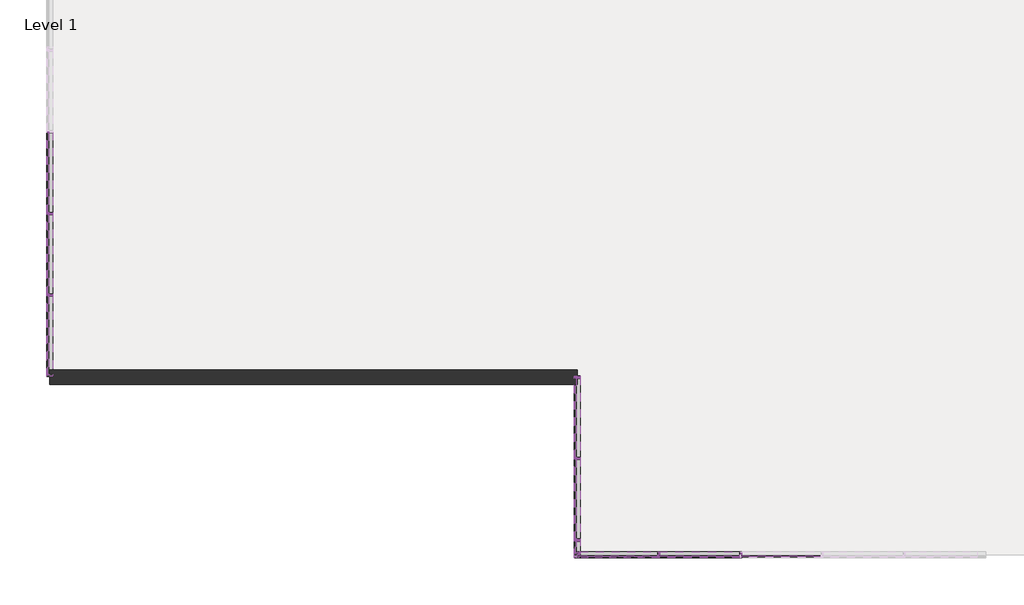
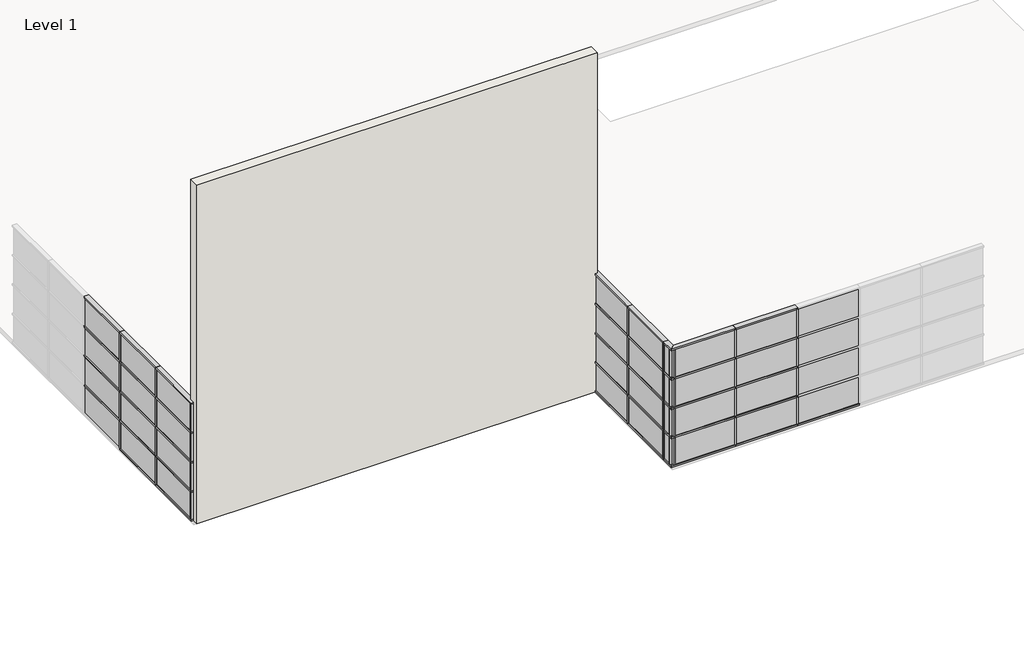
# One storey, part 1 of 6: 89 members, 36 plates, 1 wall.
"""IFC4 building model written with IfcOpenShell, lengths in millimetres."""

from ifc_helpers import new_model, si_unit, origin, origin_with_axes, place, context, project, spatial, polyline, outline, extrude, transform, mapped, element, save
from components import rectangular_mullion_50_x_150mm_a053b0ca, rectangular_mullion_50_x_150mm_116cff39, rectangular_mullion_50_x_150mm_aa47fe12, rectangular_mullion_50_x_150mm_3a148f0f, rectangular_mullion_50_x_150mm_a91aaa2b, rectangular_mullion_50_x_150mm_12a430f9, rectangular_mullion_50_x_150mm_09289d73, rectangular_mullion_50_x_150mm_e050193c, rectangular_mullion_50_x_150mm_cc09da6b, rectangular_mullion_50_x_150mm_b14c4fea, rectangular_mullion_50_x_150mm_947845bb, rectangular_mullion_50_x_150mm_614fafcd, rectangular_mullion_50_x_150mm_b8ab5643, rectangular_mullion_50_x_150mm_fe9a9d3e, system_panel_glazed_92d57a36, system_panel_glazed_751a585c, system_panel_glazed_28c32ad2, system_panel_glazed_08de6f5f, system_panel_glazed_1821110c, system_panel_glazed_9a47c754, system_panel_glazed_bbaf7566, system_panel_glazed_4177c645

model = new_model("IFC4")

# Units and contexts
model_context = context("Model", 3, world=origin())
ifc_project = project(units=[si_unit("LENGTHUNIT", "METRE", prefix="MILLI")], contexts=[model_context])

# Site, building, storey
site = spatial("IfcSite", under=ifc_project)
building = spatial("IfcBuilding", under=site)
storey = spatial("IfcBuildingStorey", under=building, Name="Level 1", Elevation=0.0)

# Members
placement = place(None, origin())
rectangular_mullion_50_x_150mm_shape = rectangular_mullion_50_x_150mm_a053b0ca(model_context)
element("IfcMember", 1, ObjectType="Rectangular Mullion : 50 x 150mm", at=placement, inside=storey, context=model_context, shape_type="MappedRepresentation", body=[
    mapped(rectangular_mullion_50_x_150mm_shape, transform((-1587.173406, -21988.7417365, 1025.0), x_axis=(1.0, 0.0, 0.0), y_axis=(0.0, -1.0, 0.0), z_axis=(0.0, 0.0, -0.9999999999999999))),
])
element("IfcMember", 2, ObjectType="Rectangular Mullion : 50 x 150mm", at=placement, inside=storey, context=model_context, shape_type="MappedRepresentation", body=[
    mapped(rectangular_mullion_50_x_150mm_shape, transform((-1587.173406, -21988.7417365, 2025.0), x_axis=(1.0, 0.0, 0.0), y_axis=(0.0, -1.0, 0.0), z_axis=(0.0, 0.0, -0.9999999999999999))),
])
element("IfcMember", 3, ObjectType="Rectangular Mullion : 50 x 150mm", at=placement, inside=storey, context=model_context, shape_type="MappedRepresentation", body=[
    mapped(rectangular_mullion_50_x_150mm_shape, transform((-1587.173406, -21988.7417365, 3025.0), x_axis=(1.0, 0.0, 0.0), y_axis=(0.0, -1.0, 0.0), z_axis=(0.0, 0.0, -1.0))),
])
element("IfcMember", 4, ObjectType="Rectangular Mullion : 50 x 150mm", at=placement, inside=storey, context=model_context, shape_type="MappedRepresentation", body=[
    mapped(rectangular_mullion_50_x_150mm_shape, transform((-3587.173406, -21988.7417365, 1025.0), x_axis=(1.0, 0.0, 0.0), y_axis=(0.0, -1.0, 0.0), z_axis=(0.0, 0.0, -0.9999999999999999))),
])
element("IfcMember", 5, ObjectType="Rectangular Mullion : 50 x 150mm", at=placement, inside=storey, context=model_context, shape_type="MappedRepresentation", body=[
    mapped(rectangular_mullion_50_x_150mm_shape, transform((-3587.173406, -21988.7417365, 2025.0), x_axis=(1.0, 0.0, 0.0), y_axis=(0.0, -1.0, 0.0), z_axis=(0.0, 0.0, -0.9999999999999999))),
])
element("IfcMember", 6, ObjectType="Rectangular Mullion : 50 x 150mm", at=placement, inside=storey, context=model_context, shape_type="MappedRepresentation", body=[
    mapped(rectangular_mullion_50_x_150mm_shape, transform((-3587.173406, -21988.7417365, 3025.0), x_axis=(1.0, 0.0, 0.0), y_axis=(0.0, -1.0, 0.0), z_axis=(0.0, 0.0, -1.0))),
])
element("IfcMember", 7, ObjectType="Rectangular Mullion : 50 x 150mm", at=placement, inside=storey, context=model_context, shape_type="MappedRepresentation", body=[
    mapped(rectangular_mullion_50_x_150mm_shape, transform((-5587.173406, -17624.0160434, 1025.0), x_axis=(0.0, -1.0, 0.0), y_axis=(-1.0, 0.0, 0.0), z_axis=(0.0, 0.0, -0.9999999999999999))),
])
element("IfcMember", 8, ObjectType="Rectangular Mullion : 50 x 150mm", at=placement, inside=storey, context=model_context, shape_type="MappedRepresentation", body=[
    mapped(rectangular_mullion_50_x_150mm_shape, transform((-5587.173406, -17624.0160434, 2025.0), x_axis=(0.0, -1.0, 0.0), y_axis=(-1.0, 0.0, 0.0), z_axis=(0.0, 0.0, -0.9999999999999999))),
])
element("IfcMember", 9, ObjectType="Rectangular Mullion : 50 x 150mm", at=placement, inside=storey, context=model_context, shape_type="MappedRepresentation", body=[
    mapped(rectangular_mullion_50_x_150mm_shape, transform((-5587.173406, -17624.0160434, 3025.0), x_axis=(0.0, -1.0, 0.0), y_axis=(-1.0, 0.0, 0.0), z_axis=(0.0, 0.0, -1.0))),
])
element("IfcMember", 10, ObjectType="Rectangular Mullion : 50 x 150mm", at=placement, inside=storey, context=model_context, shape_type="MappedRepresentation", body=[
    mapped(rectangular_mullion_50_x_150mm_shape, transform((-5587.173406, -19624.0160434, 1025.0), x_axis=(0.0, -1.0, 0.0), y_axis=(-1.0, 0.0, 0.0), z_axis=(0.0, 0.0, -0.9999999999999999))),
])
element("IfcMember", 11, ObjectType="Rectangular Mullion : 50 x 150mm", at=placement, inside=storey, context=model_context, shape_type="MappedRepresentation", body=[
    mapped(rectangular_mullion_50_x_150mm_shape, transform((-5587.173406, -19624.0160434, 2025.0), x_axis=(0.0, -1.0, 0.0), y_axis=(-1.0, 0.0, 0.0), z_axis=(0.0, 0.0, -0.9999999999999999))),
])
element("IfcMember", 12, ObjectType="Rectangular Mullion : 50 x 150mm", at=placement, inside=storey, context=model_context, shape_type="MappedRepresentation", body=[
    mapped(rectangular_mullion_50_x_150mm_shape, transform((-5587.173406, -19624.0160434, 3025.0), x_axis=(0.0, -1.0, 0.0), y_axis=(-1.0, 0.0, 0.0), z_axis=(0.0, 0.0, -1.0))),
])
element("IfcMember", 13, ObjectType="Rectangular Mullion : 50 x 150mm", at=placement, inside=storey, context=model_context, shape_type="MappedRepresentation", body=[
    mapped(rectangular_mullion_50_x_150mm_shape, transform((-5587.173406, -21624.0160434, 1025.0), x_axis=(0.0, -1.0, 0.0), y_axis=(-1.0, 0.0, 0.0), z_axis=(0.0, 0.0, -0.9999999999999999))),
])
element("IfcMember", 14, ObjectType="Rectangular Mullion : 50 x 150mm", at=placement, inside=storey, context=model_context, shape_type="MappedRepresentation", body=[
    mapped(rectangular_mullion_50_x_150mm_shape, transform((-5587.173406, -21624.0160434, 2025.0), x_axis=(0.0, -1.0, 0.0), y_axis=(-1.0, 0.0, 0.0), z_axis=(0.0, 0.0, -0.9999999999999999))),
])
element("IfcMember", 15, ObjectType="Rectangular Mullion : 50 x 150mm", at=placement, inside=storey, context=model_context, shape_type="MappedRepresentation", body=[
    mapped(rectangular_mullion_50_x_150mm_shape, transform((-5587.173406, -21624.0160434, 3025.0), x_axis=(0.0, -1.0, 0.0), y_axis=(-1.0, 0.0, 0.0), z_axis=(0.0, 0.0, -1.0))),
])
element("IfcMember", 16, ObjectType="Rectangular Mullion : 50 x 150mm", at=placement, inside=storey, context=model_context, shape_type="MappedRepresentation", body=[
    mapped(rectangular_mullion_50_x_150mm_shape, transform((-18496.7339025, -13624.0160434, 1025.0), x_axis=(0.0, -1.0, 0.0), y_axis=(-1.0, 0.0, 0.0), z_axis=(0.0, 0.0, -0.9999999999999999))),
])
element("IfcMember", 17, ObjectType="Rectangular Mullion : 50 x 150mm", at=placement, inside=storey, context=model_context, shape_type="MappedRepresentation", body=[
    mapped(rectangular_mullion_50_x_150mm_shape, transform((-18496.7339025, -13624.0160434, 2025.0), x_axis=(0.0, -1.0, 0.0), y_axis=(-1.0, 0.0, 0.0), z_axis=(0.0, 0.0, -0.9999999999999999))),
])
element("IfcMember", 18, ObjectType="Rectangular Mullion : 50 x 150mm", at=placement, inside=storey, context=model_context, shape_type="MappedRepresentation", body=[
    mapped(rectangular_mullion_50_x_150mm_shape, transform((-18496.7339025, -13624.0160434, 3025.0), x_axis=(0.0, -1.0, 0.0), y_axis=(-1.0, 0.0, 0.0), z_axis=(0.0, 0.0, -1.0))),
])
element("IfcMember", 19, ObjectType="Rectangular Mullion : 50 x 150mm", at=placement, inside=storey, context=model_context, shape_type="MappedRepresentation", body=[
    mapped(rectangular_mullion_50_x_150mm_shape, transform((-18496.7339025, -15624.0160434, 1025.0), x_axis=(0.0, -1.0, 0.0), y_axis=(-1.0, 0.0, 0.0), z_axis=(0.0, 0.0, -0.9999999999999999))),
])
element("IfcMember", 20, ObjectType="Rectangular Mullion : 50 x 150mm", at=placement, inside=storey, context=model_context, shape_type="MappedRepresentation", body=[
    mapped(rectangular_mullion_50_x_150mm_shape, transform((-18496.7339025, -15624.0160434, 2025.0), x_axis=(0.0, -1.0, 0.0), y_axis=(-1.0, 0.0, 0.0), z_axis=(0.0, 0.0, -0.9999999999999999))),
])
element("IfcMember", 21, ObjectType="Rectangular Mullion : 50 x 150mm", at=placement, inside=storey, context=model_context, shape_type="MappedRepresentation", body=[
    mapped(rectangular_mullion_50_x_150mm_shape, transform((-18496.7339025, -15624.0160434, 3025.0), x_axis=(0.0, -1.0, 0.0), y_axis=(-1.0, 0.0, 0.0), z_axis=(0.0, 0.0, -1.0))),
])
rectangular_mullion_50_x_150mm_2_shape = rectangular_mullion_50_x_150mm_116cff39(model_context)
element("IfcMember", 22, ObjectType="Rectangular Mullion : 50 x 150mm", at=placement, inside=storey, context=model_context, shape_type="MappedRepresentation", body=[
    mapped(rectangular_mullion_50_x_150mm_2_shape, transform((-1587.173406, -21988.7417365, 50.0), x_axis=(1.0, 0.0, 0.0), y_axis=(0.0, -1.0, 0.0), z_axis=(0.0, 0.0, -1.0))),
])
element("IfcMember", 23, ObjectType="Rectangular Mullion : 50 x 150mm", at=placement, inside=storey, context=model_context, shape_type="MappedRepresentation", body=[
    mapped(rectangular_mullion_50_x_150mm_2_shape, transform((-3587.173406, -21988.7417365, 50.0), x_axis=(1.0, 0.0, 0.0), y_axis=(0.0, -1.0, 0.0), z_axis=(0.0, 0.0, -1.0))),
])
element("IfcMember", 24, ObjectType="Rectangular Mullion : 50 x 150mm", at=placement, inside=storey, context=model_context, shape_type="MappedRepresentation", body=[
    mapped(rectangular_mullion_50_x_150mm_2_shape, transform((-5587.173406, -17624.0160434, 50.0), x_axis=(0.0, -1.0, 0.0), y_axis=(-1.0, 0.0, 0.0), z_axis=(0.0, 0.0, -1.0))),
])
element("IfcMember", 25, ObjectType="Rectangular Mullion : 50 x 150mm", at=placement, inside=storey, context=model_context, shape_type="MappedRepresentation", body=[
    mapped(rectangular_mullion_50_x_150mm_2_shape, transform((-5587.173406, -19624.0160434, 50.0), x_axis=(0.0, -1.0, 0.0), y_axis=(-1.0, 0.0, 0.0), z_axis=(0.0, 0.0, -1.0))),
])
element("IfcMember", 26, ObjectType="Rectangular Mullion : 50 x 150mm", at=placement, inside=storey, context=model_context, shape_type="MappedRepresentation", body=[
    mapped(rectangular_mullion_50_x_150mm_2_shape, transform((-5587.173406, -21624.0160434, 50.0), x_axis=(0.0, -1.0, 0.0), y_axis=(-1.0, 0.0, 0.0), z_axis=(0.0, 0.0, -1.0))),
])
element("IfcMember", 27, ObjectType="Rectangular Mullion : 50 x 150mm", at=placement, inside=storey, context=model_context, shape_type="MappedRepresentation", body=[
    mapped(rectangular_mullion_50_x_150mm_2_shape, transform((-18496.7339025, -13624.0160434, 50.0), x_axis=(0.0, -1.0, 0.0), y_axis=(-1.0, 0.0, 0.0), z_axis=(0.0, 0.0, -0.9999999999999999))),
])
element("IfcMember", 28, ObjectType="Rectangular Mullion : 50 x 150mm", at=placement, inside=storey, context=model_context, shape_type="MappedRepresentation", body=[
    mapped(rectangular_mullion_50_x_150mm_2_shape, transform((-18496.7339025, -15624.0160434, 50.0), x_axis=(0.0, -1.0, 0.0), y_axis=(-1.0, 0.0, 0.0), z_axis=(0.0, 0.0, -0.9999999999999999))),
])
rectangular_mullion_50_x_150mm_3_shape = rectangular_mullion_50_x_150mm_aa47fe12(model_context)
element("IfcMember", 29, ObjectType="Rectangular Mullion : 50 x 150mm", at=placement, inside=storey, context=model_context, shape_type="MappedRepresentation", body=[
    mapped(rectangular_mullion_50_x_150mm_3_shape, transform((-3587.173406, -21988.7417365, 0.0), x_axis=(0.0, 0.0, -1.0), y_axis=(0.0, -1.0, 0.0), z_axis=(-1.0, 0.0, 0.0))),
])
element("IfcMember", 30, ObjectType="Rectangular Mullion : 50 x 150mm", at=placement, inside=storey, context=model_context, shape_type="MappedRepresentation", body=[
    mapped(rectangular_mullion_50_x_150mm_3_shape, transform((-1587.173406, -21988.7417365, 0.0), x_axis=(0.0, 0.0, -1.0), y_axis=(0.0, -1.0, 0.0), z_axis=(-1.0, 0.0, 0.0))),
])
element("IfcMember", 31, ObjectType="Rectangular Mullion : 50 x 150mm", at=placement, inside=storey, context=model_context, shape_type="MappedRepresentation", body=[
    mapped(rectangular_mullion_50_x_150mm_3_shape, transform((-5587.173406, -17624.0160434, 0.0), x_axis=(0.0, 0.0, -1.0), y_axis=(-1.0, 0.0, 0.0), z_axis=(0.0, 1.0, 0.0))),
])
element("IfcMember", 32, ObjectType="Rectangular Mullion : 50 x 150mm", at=placement, inside=storey, context=model_context, shape_type="MappedRepresentation", body=[
    mapped(rectangular_mullion_50_x_150mm_3_shape, transform((-5587.173406, -19624.0160434, 0.0), x_axis=(0.0, 0.0, -1.0), y_axis=(-1.0, 0.0, 0.0), z_axis=(0.0, 1.0, 0.0))),
])
element("IfcMember", 33, ObjectType="Rectangular Mullion : 50 x 150mm", at=placement, inside=storey, context=model_context, shape_type="MappedRepresentation", body=[
    mapped(rectangular_mullion_50_x_150mm_3_shape, transform((-18496.7339025, -13624.0160434, 0.0), x_axis=(0.0, 0.0, -1.0), y_axis=(-1.0, 0.0, 0.0), z_axis=(0.0, 1.0, 0.0))),
])
rectangular_mullion_50_x_150mm_4_shape = rectangular_mullion_50_x_150mm_3a148f0f(model_context)
element("IfcMember", 34, ObjectType="Rectangular Mullion : 50 x 150mm", at=placement, inside=storey, context=model_context, shape_type="MappedRepresentation", body=[
    mapped(rectangular_mullion_50_x_150mm_4_shape, transform((-1587.173406, -21988.7417365, 1000.0), x_axis=(0.0, 0.0, 1.0), y_axis=(0.0, -1.0, 0.0), z_axis=(1.0, 0.0, 0.0))),
])
element("IfcMember", 35, ObjectType="Rectangular Mullion : 50 x 150mm", at=placement, inside=storey, context=model_context, shape_type="MappedRepresentation", body=[
    mapped(rectangular_mullion_50_x_150mm_4_shape, transform((-1587.173406, -21988.7417365, 2000.0), x_axis=(0.0, 0.0, 1.0), y_axis=(0.0, -1.0, 0.0), z_axis=(1.0, 0.0, 0.0))),
])
element("IfcMember", 36, ObjectType="Rectangular Mullion : 50 x 150mm", at=placement, inside=storey, context=model_context, shape_type="MappedRepresentation", body=[
    mapped(rectangular_mullion_50_x_150mm_4_shape, transform((-1587.173406, -21988.7417365, 3000.0), x_axis=(0.0, 0.0, 1.0), y_axis=(0.0, -1.0, 0.0), z_axis=(1.0, 0.0, 0.0))),
])
element("IfcMember", 37, ObjectType="Rectangular Mullion : 50 x 150mm", at=placement, inside=storey, context=model_context, shape_type="MappedRepresentation", body=[
    mapped(rectangular_mullion_50_x_150mm_4_shape, transform((-1587.173406, -21988.7417365, 4000.0), x_axis=(0.0, 0.0, 1.0), y_axis=(0.0, -1.0, 0.0), z_axis=(1.0, 0.0, 0.0))),
])
element("IfcMember", 38, ObjectType="Rectangular Mullion : 50 x 150mm", at=placement, inside=storey, context=model_context, shape_type="MappedRepresentation", body=[
    mapped(rectangular_mullion_50_x_150mm_4_shape, transform((-5587.173406, -19624.0160434, 1000.0), x_axis=(0.0, 0.0, 1.0), y_axis=(-1.0, 0.0, 0.0), z_axis=(0.0, -1.0, 0.0))),
])
element("IfcMember", 39, ObjectType="Rectangular Mullion : 50 x 150mm", at=placement, inside=storey, context=model_context, shape_type="MappedRepresentation", body=[
    mapped(rectangular_mullion_50_x_150mm_4_shape, transform((-5587.173406, -21624.0160434, 1000.0), x_axis=(0.0, 0.0, 1.0), y_axis=(-1.0, 0.0, 0.0), z_axis=(0.0, -1.0, 0.0))),
])
element("IfcMember", 40, ObjectType="Rectangular Mullion : 50 x 150mm", at=placement, inside=storey, context=model_context, shape_type="MappedRepresentation", body=[
    mapped(rectangular_mullion_50_x_150mm_4_shape, transform((-5587.173406, -19624.0160434, 2000.0), x_axis=(0.0, 0.0, 1.0), y_axis=(-1.0, 0.0, 0.0), z_axis=(0.0, -1.0, 0.0))),
])
element("IfcMember", 41, ObjectType="Rectangular Mullion : 50 x 150mm", at=placement, inside=storey, context=model_context, shape_type="MappedRepresentation", body=[
    mapped(rectangular_mullion_50_x_150mm_4_shape, transform((-5587.173406, -21624.0160434, 2000.0), x_axis=(0.0, 0.0, 1.0), y_axis=(-1.0, 0.0, 0.0), z_axis=(0.0, -1.0, 0.0))),
])
element("IfcMember", 42, ObjectType="Rectangular Mullion : 50 x 150mm", at=placement, inside=storey, context=model_context, shape_type="MappedRepresentation", body=[
    mapped(rectangular_mullion_50_x_150mm_4_shape, transform((-5587.173406, -19624.0160434, 3000.0), x_axis=(0.0, 0.0, 1.0), y_axis=(-1.0, 0.0, 0.0), z_axis=(0.0, -1.0, 0.0))),
])
element("IfcMember", 43, ObjectType="Rectangular Mullion : 50 x 150mm", at=placement, inside=storey, context=model_context, shape_type="MappedRepresentation", body=[
    mapped(rectangular_mullion_50_x_150mm_4_shape, transform((-5587.173406, -21624.0160434, 3000.0), x_axis=(0.0, 0.0, 1.0), y_axis=(-1.0, 0.0, 0.0), z_axis=(0.0, -1.0, 0.0))),
])
element("IfcMember", 44, ObjectType="Rectangular Mullion : 50 x 150mm", at=placement, inside=storey, context=model_context, shape_type="MappedRepresentation", body=[
    mapped(rectangular_mullion_50_x_150mm_4_shape, transform((-5587.173406, -19624.0160434, 4000.0), x_axis=(0.0, 0.0, 1.0), y_axis=(-1.0, 0.0, 0.0), z_axis=(0.0, -1.0, 0.0))),
])
element("IfcMember", 45, ObjectType="Rectangular Mullion : 50 x 150mm", at=placement, inside=storey, context=model_context, shape_type="MappedRepresentation", body=[
    mapped(rectangular_mullion_50_x_150mm_4_shape, transform((-5587.173406, -21624.0160434, 4000.0), x_axis=(0.0, 0.0, 1.0), y_axis=(-1.0, 0.0, 0.0), z_axis=(0.0, -1.0, 0.0))),
])
element("IfcMember", 46, ObjectType="Rectangular Mullion : 50 x 150mm", at=placement, inside=storey, context=model_context, shape_type="MappedRepresentation", body=[
    mapped(rectangular_mullion_50_x_150mm_4_shape, transform((-18496.7339025, -13624.0160434, 1000.0), x_axis=(0.0, 0.0, 1.0), y_axis=(-1.0, 0.0, 0.0), z_axis=(0.0, -1.0, 0.0))),
])
element("IfcMember", 47, ObjectType="Rectangular Mullion : 50 x 150mm", at=placement, inside=storey, context=model_context, shape_type="MappedRepresentation", body=[
    mapped(rectangular_mullion_50_x_150mm_4_shape, transform((-18496.7339025, -15624.0160434, 1000.0), x_axis=(0.0, 0.0, 1.0), y_axis=(-1.0, 0.0, 0.0), z_axis=(0.0, -1.0, 0.0))),
])
element("IfcMember", 48, ObjectType="Rectangular Mullion : 50 x 150mm", at=placement, inside=storey, context=model_context, shape_type="MappedRepresentation", body=[
    mapped(rectangular_mullion_50_x_150mm_4_shape, transform((-18496.7339025, -13624.0160434, 2000.0), x_axis=(0.0, 0.0, 1.0), y_axis=(-1.0, 0.0, 0.0), z_axis=(0.0, -1.0, 0.0))),
])
element("IfcMember", 49, ObjectType="Rectangular Mullion : 50 x 150mm", at=placement, inside=storey, context=model_context, shape_type="MappedRepresentation", body=[
    mapped(rectangular_mullion_50_x_150mm_4_shape, transform((-18496.7339025, -15624.0160434, 2000.0), x_axis=(0.0, 0.0, 1.0), y_axis=(-1.0, 0.0, 0.0), z_axis=(0.0, -1.0, 0.0))),
])
element("IfcMember", 50, ObjectType="Rectangular Mullion : 50 x 150mm", at=placement, inside=storey, context=model_context, shape_type="MappedRepresentation", body=[
    mapped(rectangular_mullion_50_x_150mm_4_shape, transform((-18496.7339025, -13624.0160434, 3000.0), x_axis=(0.0, 0.0, 1.0), y_axis=(-1.0, 0.0, 0.0), z_axis=(0.0, -1.0, 0.0))),
])
element("IfcMember", 51, ObjectType="Rectangular Mullion : 50 x 150mm", at=placement, inside=storey, context=model_context, shape_type="MappedRepresentation", body=[
    mapped(rectangular_mullion_50_x_150mm_4_shape, transform((-18496.7339025, -15624.0160434, 3000.0), x_axis=(0.0, 0.0, 1.0), y_axis=(-1.0, 0.0, 0.0), z_axis=(0.0, -1.0, 0.0))),
])
element("IfcMember", 52, ObjectType="Rectangular Mullion : 50 x 150mm", at=placement, inside=storey, context=model_context, shape_type="MappedRepresentation", body=[
    mapped(rectangular_mullion_50_x_150mm_4_shape, transform((-18496.7339025, -13624.0160434, 4000.0), x_axis=(0.0, 0.0, 1.0), y_axis=(-1.0, 0.0, 0.0), z_axis=(0.0, -1.0, 0.0))),
])
element("IfcMember", 53, ObjectType="Rectangular Mullion : 50 x 150mm", at=placement, inside=storey, context=model_context, shape_type="MappedRepresentation", body=[
    mapped(rectangular_mullion_50_x_150mm_4_shape, transform((-18496.7339025, -15624.0160434, 4000.0), x_axis=(0.0, 0.0, 1.0), y_axis=(-1.0, 0.0, 0.0), z_axis=(0.0, -1.0, 0.0))),
])
rectangular_mullion_50_x_150mm_5_shape = rectangular_mullion_50_x_150mm_a91aaa2b(model_context)
element("IfcMember", 54, ObjectType="Rectangular Mullion : 50 x 150mm", at=placement, inside=storey, context=model_context, shape_type="MappedRepresentation", body=[
    mapped(rectangular_mullion_50_x_150mm_5_shape, transform((-5587.173406, -21988.7417365, 975.0), x_axis=(-1.0, 0.0, 0.0), y_axis=(0.0, -1.0, 0.0), z_axis=(0.0, 0.0, 1.0))),
])
element("IfcMember", 55, ObjectType="Rectangular Mullion : 50 x 150mm", at=placement, inside=storey, context=model_context, shape_type="MappedRepresentation", body=[
    mapped(rectangular_mullion_50_x_150mm_5_shape, transform((-5587.173406, -17621.30803, 975.0), x_axis=(0.0, 1.0, 0.0), y_axis=(-1.0, 0.0, 0.0), z_axis=(0.0, 0.0, 1.0))),
])
rectangular_mullion_50_x_150mm_6_shape = rectangular_mullion_50_x_150mm_12a430f9(model_context)
element("IfcMember", 56, ObjectType="Rectangular Mullion : 50 x 150mm", at=placement, inside=storey, context=model_context, shape_type="MappedRepresentation", body=[
    mapped(rectangular_mullion_50_x_150mm_6_shape, transform((-5587.173406, -21988.7417365, 1975.0), x_axis=(-1.0, 0.0, 0.0), y_axis=(0.0, -1.0, 0.0), z_axis=(0.0, 0.0, 0.9999999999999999))),
])
element("IfcMember", 57, ObjectType="Rectangular Mullion : 50 x 150mm", at=placement, inside=storey, context=model_context, shape_type="MappedRepresentation", body=[
    mapped(rectangular_mullion_50_x_150mm_6_shape, transform((-5587.173406, -21988.7417365, 2975.0), x_axis=(-1.0, 0.0, 0.0), y_axis=(0.0, -1.0, 0.0), z_axis=(0.0, 0.0, 0.9999999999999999))),
])
element("IfcMember", 58, ObjectType="Rectangular Mullion : 50 x 150mm", at=placement, inside=storey, context=model_context, shape_type="MappedRepresentation", body=[
    mapped(rectangular_mullion_50_x_150mm_6_shape, transform((-5587.173406, -21988.7417365, 3975.0), x_axis=(-1.0, 0.0, 0.0), y_axis=(0.0, -1.0, 0.0), z_axis=(0.0, 0.0, 1.0))),
])
element("IfcMember", 59, ObjectType="Rectangular Mullion : 50 x 150mm", at=placement, inside=storey, context=model_context, shape_type="MappedRepresentation", body=[
    mapped(rectangular_mullion_50_x_150mm_6_shape, transform((-5587.173406, -17621.30803, 1975.0), x_axis=(0.0, 1.0, 0.0), y_axis=(-1.0, 0.0, 0.0), z_axis=(0.0, 0.0, 0.9999999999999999))),
])
element("IfcMember", 60, ObjectType="Rectangular Mullion : 50 x 150mm", at=placement, inside=storey, context=model_context, shape_type="MappedRepresentation", body=[
    mapped(rectangular_mullion_50_x_150mm_6_shape, transform((-5587.173406, -17621.30803, 2975.0), x_axis=(0.0, 1.0, 0.0), y_axis=(-1.0, 0.0, 0.0), z_axis=(0.0, 0.0, 0.9999999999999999))),
])
element("IfcMember", 61, ObjectType="Rectangular Mullion : 50 x 150mm", at=placement, inside=storey, context=model_context, shape_type="MappedRepresentation", body=[
    mapped(rectangular_mullion_50_x_150mm_6_shape, transform((-5587.173406, -17621.30803, 3975.0), x_axis=(0.0, 1.0, 0.0), y_axis=(-1.0, 0.0, 0.0), z_axis=(0.0, 0.0, 1.0))),
])
element("IfcMember", 62, ObjectType="Rectangular Mullion : 50 x 150mm", at=placement, inside=storey, context=model_context, shape_type="MappedRepresentation", body=[
    mapped(rectangular_mullion_50_x_150mm_6_shape, transform((-5587.173406, -21988.7417365, 1025.0), x_axis=(0.0, -1.0, 0.0), y_axis=(-1.0, 0.0, 0.0), z_axis=(0.0, 0.0, -0.9999999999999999))),
])
element("IfcMember", 63, ObjectType="Rectangular Mullion : 50 x 150mm", at=placement, inside=storey, context=model_context, shape_type="MappedRepresentation", body=[
    mapped(rectangular_mullion_50_x_150mm_6_shape, transform((-5587.173406, -21988.7417365, 2025.0), x_axis=(0.0, -1.0, 0.0), y_axis=(-1.0, 0.0, 0.0), z_axis=(0.0, 0.0, -0.9999999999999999))),
])
element("IfcMember", 64, ObjectType="Rectangular Mullion : 50 x 150mm", at=placement, inside=storey, context=model_context, shape_type="MappedRepresentation", body=[
    mapped(rectangular_mullion_50_x_150mm_6_shape, transform((-5587.173406, -21988.7417365, 3025.0), x_axis=(0.0, -1.0, 0.0), y_axis=(-1.0, 0.0, 0.0), z_axis=(0.0, 0.0, -1.0))),
])
element("IfcMember", 65, ObjectType="Rectangular Mullion : 50 x 150mm", at=placement, inside=storey, context=model_context, shape_type="MappedRepresentation", body=[
    mapped(rectangular_mullion_50_x_150mm_6_shape, transform((-18496.7339025, -17621.30803, 1025.0), x_axis=(0.0, -1.0, 0.0), y_axis=(-1.0, 0.0, 0.0), z_axis=(0.0, 0.0, -0.9999999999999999))),
])
element("IfcMember", 66, ObjectType="Rectangular Mullion : 50 x 150mm", at=placement, inside=storey, context=model_context, shape_type="MappedRepresentation", body=[
    mapped(rectangular_mullion_50_x_150mm_6_shape, transform((-18496.7339025, -17621.30803, 2025.0), x_axis=(0.0, -1.0, 0.0), y_axis=(-1.0, 0.0, 0.0), z_axis=(0.0, 0.0, -0.9999999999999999))),
])
element("IfcMember", 67, ObjectType="Rectangular Mullion : 50 x 150mm", at=placement, inside=storey, context=model_context, shape_type="MappedRepresentation", body=[
    mapped(rectangular_mullion_50_x_150mm_6_shape, transform((-18496.7339025, -17621.30803, 3025.0), x_axis=(0.0, -1.0, 0.0), y_axis=(-1.0, 0.0, 0.0), z_axis=(0.0, 0.0, -1.0))),
])
element("IfcMember", 68, ObjectType="Rectangular Mullion : 50 x 150mm", at=placement, inside=storey, context=model_context, shape_type="MappedRepresentation", body=[
    mapped(rectangular_mullion_50_x_150mm_5_shape, transform((-5587.173406, -21988.7417365, 50.0), x_axis=(0.0, -1.0, 0.0), y_axis=(-1.0, 0.0, 0.0), z_axis=(0.0, 0.0, -1.0))),
])
element("IfcMember", 69, ObjectType="Rectangular Mullion : 50 x 150mm", at=placement, inside=storey, context=model_context, shape_type="MappedRepresentation", body=[
    mapped(rectangular_mullion_50_x_150mm_5_shape, transform((-18496.7339025, -17621.30803, 50.0), x_axis=(0.0, -1.0, 0.0), y_axis=(-1.0, 0.0, 0.0), z_axis=(0.0, 0.0, -1.0))),
])
rectangular_mullion_50_x_150mm_7_shape = rectangular_mullion_50_x_150mm_09289d73(model_context)
element("IfcMember", 70, ObjectType="Rectangular Mullion : 50 x 150mm", at=placement, inside=storey, context=model_context, shape_type="MappedRepresentation", body=[
    mapped(rectangular_mullion_50_x_150mm_7_shape, transform((-5587.173406, -17621.30803, 0.0), x_axis=(0.0, 0.0, -1.0), y_axis=(-1.0, 0.0, 0.0), z_axis=(0.0, 1.0, 0.0))),
])
rectangular_mullion_50_x_150mm_8_shape = rectangular_mullion_50_x_150mm_e050193c(model_context)
element("IfcMember", 71, ObjectType="Rectangular Mullion : 50 x 150mm", at=placement, inside=storey, context=model_context, shape_type="MappedRepresentation", body=[
    mapped(rectangular_mullion_50_x_150mm_8_shape, transform((-5587.173406, -17624.0160434, 1000.0), x_axis=(0.0, 0.0, 1.0), y_axis=(-1.0, 0.0, 0.0), z_axis=(0.0, -1.0, 0.0))),
])
element("IfcMember", 72, ObjectType="Rectangular Mullion : 50 x 150mm", at=placement, inside=storey, context=model_context, shape_type="MappedRepresentation", body=[
    mapped(rectangular_mullion_50_x_150mm_8_shape, transform((-5587.173406, -17624.0160434, 2000.0), x_axis=(0.0, 0.0, 1.0), y_axis=(-1.0, 0.0, 0.0), z_axis=(0.0, -1.0, 0.0))),
])
element("IfcMember", 73, ObjectType="Rectangular Mullion : 50 x 150mm", at=placement, inside=storey, context=model_context, shape_type="MappedRepresentation", body=[
    mapped(rectangular_mullion_50_x_150mm_8_shape, transform((-5587.173406, -17624.0160434, 3000.0), x_axis=(0.0, 0.0, 1.0), y_axis=(-1.0, 0.0, 0.0), z_axis=(0.0, -1.0, 0.0))),
])
element("IfcMember", 74, ObjectType="Rectangular Mullion : 50 x 150mm", at=placement, inside=storey, context=model_context, shape_type="MappedRepresentation", body=[
    mapped(rectangular_mullion_50_x_150mm_8_shape, transform((-5587.173406, -17624.0160434, 4000.0), x_axis=(0.0, 0.0, 1.0), y_axis=(-1.0, 0.0, 0.0), z_axis=(0.0, -1.0, 0.0))),
])
rectangular_mullion_50_x_150mm_9_shape = rectangular_mullion_50_x_150mm_cc09da6b(model_context)
element("IfcMember", 75, ObjectType="Rectangular Mullion : 50 x 150mm", at=placement, inside=storey, context=model_context, shape_type="MappedRepresentation", body=[
    mapped(rectangular_mullion_50_x_150mm_9_shape, transform((-5587.173406, -21988.7417365, 1000.0), x_axis=(0.0, 0.0, 1.0), y_axis=(-1.0, 0.0, 0.0), z_axis=(0.0, -1.0, 0.0))),
])
element("IfcMember", 76, ObjectType="Rectangular Mullion : 50 x 150mm", at=placement, inside=storey, context=model_context, shape_type="MappedRepresentation", body=[
    mapped(rectangular_mullion_50_x_150mm_9_shape, transform((-5587.173406, -21988.7417365, 2000.0), x_axis=(0.0, 0.0, 1.0), y_axis=(-1.0, 0.0, 0.0), z_axis=(0.0, -1.0, 0.0))),
])
element("IfcMember", 77, ObjectType="Rectangular Mullion : 50 x 150mm", at=placement, inside=storey, context=model_context, shape_type="MappedRepresentation", body=[
    mapped(rectangular_mullion_50_x_150mm_9_shape, transform((-5587.173406, -21988.7417365, 3000.0), x_axis=(0.0, 0.0, 1.0), y_axis=(-1.0, 0.0, 0.0), z_axis=(0.0, -1.0, 0.0))),
])
element("IfcMember", 78, ObjectType="Rectangular Mullion : 50 x 150mm", at=placement, inside=storey, context=model_context, shape_type="MappedRepresentation", body=[
    mapped(rectangular_mullion_50_x_150mm_9_shape, transform((-5587.173406, -21988.7417365, 4000.0), x_axis=(0.0, 0.0, 1.0), y_axis=(-1.0, 0.0, 0.0), z_axis=(0.0, -1.0, 0.0))),
])
rectangular_mullion_50_x_150mm_10_shape = rectangular_mullion_50_x_150mm_b14c4fea(model_context)
element("IfcMember", 79, ObjectType="Rectangular Mullion : 50 x 150mm", at=placement, inside=storey, context=model_context, shape_type="MappedRepresentation", body=[
    mapped(rectangular_mullion_50_x_150mm_10_shape, transform((-5587.173406, -21624.0160434, 0.0), x_axis=(0.0, 0.0, -1.0), y_axis=(-1.0, 0.0, 0.0), z_axis=(0.0, 1.0, 0.0))),
])
rectangular_mullion_50_x_150mm_11_shape = rectangular_mullion_50_x_150mm_947845bb(model_context)
element("IfcMember", 80, ObjectType="Rectangular Mullion : 50 x 150mm", at=placement, inside=storey, context=model_context, shape_type="MappedRepresentation", body=[
    mapped(rectangular_mullion_50_x_150mm_11_shape, transform((-3587.173406, -21988.7417365, 1000.0), x_axis=(0.0, 0.0, 1.0), y_axis=(0.0, -1.0, 0.0), z_axis=(1.0, 0.0, 0.0))),
])
element("IfcMember", 81, ObjectType="Rectangular Mullion : 50 x 150mm", at=placement, inside=storey, context=model_context, shape_type="MappedRepresentation", body=[
    mapped(rectangular_mullion_50_x_150mm_11_shape, transform((-3587.173406, -21988.7417365, 2000.0), x_axis=(0.0, 0.0, 1.0), y_axis=(0.0, -1.0, 0.0), z_axis=(1.0, 0.0, 0.0))),
])
element("IfcMember", 82, ObjectType="Rectangular Mullion : 50 x 150mm", at=placement, inside=storey, context=model_context, shape_type="MappedRepresentation", body=[
    mapped(rectangular_mullion_50_x_150mm_11_shape, transform((-3587.173406, -21988.7417365, 3000.0), x_axis=(0.0, 0.0, 1.0), y_axis=(0.0, -1.0, 0.0), z_axis=(1.0, 0.0, 0.0))),
])
element("IfcMember", 83, ObjectType="Rectangular Mullion : 50 x 150mm", at=placement, inside=storey, context=model_context, shape_type="MappedRepresentation", body=[
    mapped(rectangular_mullion_50_x_150mm_11_shape, transform((-3587.173406, -21988.7417365, 4000.0), x_axis=(0.0, 0.0, 1.0), y_axis=(0.0, -1.0, 0.0), z_axis=(1.0, 0.0, 0.0))),
])
rectangular_mullion_50_x_150mm_12_shape = rectangular_mullion_50_x_150mm_614fafcd(model_context)
element("IfcMember", 84, ObjectType="Rectangular Mullion : 50 x 150mm", at=placement, inside=storey, context=model_context, shape_type="MappedRepresentation", body=[
    mapped(rectangular_mullion_50_x_150mm_12_shape, transform((-5587.173406, -21988.7417365, 0.0), x_axis=(0.0, 0.0, -1.0), y_axis=(0.0, -1.0, 0.0), z_axis=(-1.0, 0.0, 0.0))),
])
rectangular_mullion_50_x_150mm_13_shape = rectangular_mullion_50_x_150mm_b8ab5643(model_context)
element("IfcMember", 85, ObjectType="Rectangular Mullion : 50 x 150mm", at=placement, inside=storey, context=model_context, shape_type="MappedRepresentation", body=[
    mapped(rectangular_mullion_50_x_150mm_13_shape, transform((-18496.7339025, -17621.30803, 4000.0), x_axis=(0.0, 0.0, 1.0), y_axis=(-1.0, 0.0, 0.0), z_axis=(0.0, -1.0, 0.0))),
])
element("IfcMember", 86, ObjectType="Rectangular Mullion : 50 x 150mm", at=placement, inside=storey, context=model_context, shape_type="MappedRepresentation", body=[
    mapped(rectangular_mullion_50_x_150mm_13_shape, transform((-18496.7339025, -17621.30803, 1000.0), x_axis=(0.0, 0.0, 1.0), y_axis=(-1.0, 0.0, 0.0), z_axis=(0.0, -1.0, 0.0))),
])
element("IfcMember", 87, ObjectType="Rectangular Mullion : 50 x 150mm", at=placement, inside=storey, context=model_context, shape_type="MappedRepresentation", body=[
    mapped(rectangular_mullion_50_x_150mm_13_shape, transform((-18496.7339025, -17621.30803, 2000.0), x_axis=(0.0, 0.0, 1.0), y_axis=(-1.0, 0.0, 0.0), z_axis=(0.0, -1.0, 0.0))),
])
element("IfcMember", 88, ObjectType="Rectangular Mullion : 50 x 150mm", at=placement, inside=storey, context=model_context, shape_type="MappedRepresentation", body=[
    mapped(rectangular_mullion_50_x_150mm_13_shape, transform((-18496.7339025, -17621.30803, 3000.0), x_axis=(0.0, 0.0, 1.0), y_axis=(-1.0, 0.0, 0.0), z_axis=(0.0, -1.0, 0.0))),
])
rectangular_mullion_50_x_150mm_14_shape = rectangular_mullion_50_x_150mm_fe9a9d3e(model_context)
element("IfcMember", 89, ObjectType="Rectangular Mullion : 50 x 150mm", at=placement, inside=storey, context=model_context, shape_type="MappedRepresentation", body=[
    mapped(rectangular_mullion_50_x_150mm_14_shape, transform((-18496.7339025, -15624.0160434, 0.0), x_axis=(0.0, 0.0, -1.0), y_axis=(-1.0, 0.0, 0.0), z_axis=(0.0, 1.0, 0.0))),
])

# Plates
system_panel_glazed_shape = system_panel_glazed_92d57a36(model_context)
element("IfcPlate", 90, ObjectType="System Panel : Glazed", at=placement, inside=storey, context=model_context, shape_type="MappedRepresentation", body=[
    mapped(system_panel_glazed_shape, transform((-5537.173406, -21988.7417365, 512.5), x_axis=(0.0, 0.0, 1.0), y_axis=(0.0, -1.0, 0.0), z_axis=(1.0, 0.0, 0.0))),
])
system_panel_glazed_2_shape = system_panel_glazed_751a585c(model_context)
element("IfcPlate", 91, ObjectType="System Panel : Glazed", at=placement, inside=storey, context=model_context, shape_type="MappedRepresentation", body=[
    mapped(system_panel_glazed_2_shape, transform((-5537.173406, -21988.7417365, 1500.0), x_axis=(0.0, 0.0, 1.0), y_axis=(0.0, -1.0, 0.0), z_axis=(1.0, 0.0, 0.0))),
])
element("IfcPlate", 92, ObjectType="System Panel : Glazed", at=placement, inside=storey, context=model_context, shape_type="MappedRepresentation", body=[
    mapped(system_panel_glazed_2_shape, transform((-5537.173406, -21988.7417365, 2500.0), x_axis=(0.0, 0.0, 1.0), y_axis=(0.0, -1.0, 0.0), z_axis=(1.0, 0.0, 0.0))),
])
element("IfcPlate", 93, ObjectType="System Panel : Glazed", at=placement, inside=storey, context=model_context, shape_type="MappedRepresentation", body=[
    mapped(system_panel_glazed_2_shape, transform((-5537.173406, -21988.7417365, 3500.0), x_axis=(0.0, 0.0, 1.0), y_axis=(0.0, -1.0, 0.0), z_axis=(1.0, 0.0, 0.0))),
])
system_panel_glazed_3_shape = system_panel_glazed_28c32ad2(model_context)
element("IfcPlate", 94, ObjectType="System Panel : Glazed", at=placement, inside=storey, context=model_context, shape_type="MappedRepresentation", body=[
    mapped(system_panel_glazed_3_shape, transform((-18496.7339025, -11649.0160434, 512.5), x_axis=(0.0, 0.0, 1.0), y_axis=(-1.0, 0.0, 0.0), z_axis=(0.0, -1.0, 0.0))),
])
element("IfcPlate", 95, ObjectType="System Panel : Glazed", at=placement, inside=storey, context=model_context, shape_type="MappedRepresentation", body=[
    mapped(system_panel_glazed_3_shape, transform((-18496.7339025, -13649.0160434, 512.5), x_axis=(0.0, 0.0, 1.0), y_axis=(-1.0, 0.0, 0.0), z_axis=(0.0, -1.0, 0.0))),
])
element("IfcPlate", 96, ObjectType="System Panel : Glazed", at=placement, inside=storey, context=model_context, shape_type="MappedRepresentation", body=[
    mapped(system_panel_glazed_3_shape, transform((-5587.173406, -17649.0160434, 512.5), x_axis=(0.0, 0.0, 1.0), y_axis=(-1.0, 0.0, 0.0), z_axis=(0.0, -1.0, 0.0))),
])
element("IfcPlate", 97, ObjectType="System Panel : Glazed", at=placement, inside=storey, context=model_context, shape_type="MappedRepresentation", body=[
    mapped(system_panel_glazed_3_shape, transform((-5587.173406, -19649.0160434, 512.5), x_axis=(0.0, 0.0, 1.0), y_axis=(-1.0, 0.0, 0.0), z_axis=(0.0, -1.0, 0.0))),
])
element("IfcPlate", 98, ObjectType="System Panel : Glazed", at=placement, inside=storey, context=model_context, shape_type="MappedRepresentation", body=[
    mapped(system_panel_glazed_3_shape, transform((-3562.173406, -21988.7417365, 512.5), x_axis=(0.0, 0.0, 1.0), y_axis=(0.0, -1.0, 0.0), z_axis=(1.0, 0.0, 0.0))),
])
element("IfcPlate", 99, ObjectType="System Panel : Glazed", at=placement, inside=storey, context=model_context, shape_type="MappedRepresentation", body=[
    mapped(system_panel_glazed_3_shape, transform((-1562.173406, -21988.7417365, 512.5), x_axis=(0.0, 0.0, 1.0), y_axis=(0.0, -1.0, 0.0), z_axis=(1.0, 0.0, 0.0))),
])
system_panel_glazed_4_shape = system_panel_glazed_08de6f5f(model_context)
element("IfcPlate", 100, ObjectType="System Panel : Glazed", at=placement, inside=storey, context=model_context, shape_type="MappedRepresentation", body=[
    mapped(system_panel_glazed_4_shape, transform((-18496.7339025, -11649.0160434, 1500.0), x_axis=(0.0, 0.0, 1.0), y_axis=(-1.0, 0.0, 0.0), z_axis=(0.0, -1.0, 0.0))),
])
element("IfcPlate", 101, ObjectType="System Panel : Glazed", at=placement, inside=storey, context=model_context, shape_type="MappedRepresentation", body=[
    mapped(system_panel_glazed_4_shape, transform((-18496.7339025, -11649.0160434, 2500.0), x_axis=(0.0, 0.0, 1.0), y_axis=(-1.0, 0.0, 0.0), z_axis=(0.0, -1.0, 0.0))),
])
element("IfcPlate", 102, ObjectType="System Panel : Glazed", at=placement, inside=storey, context=model_context, shape_type="MappedRepresentation", body=[
    mapped(system_panel_glazed_4_shape, transform((-18496.7339025, -11649.0160434, 3500.0), x_axis=(0.0, 0.0, 1.0), y_axis=(-1.0, 0.0, 0.0), z_axis=(0.0, -1.0, 0.0))),
])
element("IfcPlate", 103, ObjectType="System Panel : Glazed", at=placement, inside=storey, context=model_context, shape_type="MappedRepresentation", body=[
    mapped(system_panel_glazed_4_shape, transform((-18496.7339025, -13649.0160434, 1500.0), x_axis=(0.0, 0.0, 1.0), y_axis=(-1.0, 0.0, 0.0), z_axis=(0.0, -1.0, 0.0))),
])
element("IfcPlate", 104, ObjectType="System Panel : Glazed", at=placement, inside=storey, context=model_context, shape_type="MappedRepresentation", body=[
    mapped(system_panel_glazed_4_shape, transform((-18496.7339025, -13649.0160434, 2500.0), x_axis=(0.0, 0.0, 1.0), y_axis=(-1.0, 0.0, 0.0), z_axis=(0.0, -1.0, 0.0))),
])
element("IfcPlate", 105, ObjectType="System Panel : Glazed", at=placement, inside=storey, context=model_context, shape_type="MappedRepresentation", body=[
    mapped(system_panel_glazed_4_shape, transform((-18496.7339025, -13649.0160434, 3500.0), x_axis=(0.0, 0.0, 1.0), y_axis=(-1.0, 0.0, 0.0), z_axis=(0.0, -1.0, 0.0))),
])
element("IfcPlate", 106, ObjectType="System Panel : Glazed", at=placement, inside=storey, context=model_context, shape_type="MappedRepresentation", body=[
    mapped(system_panel_glazed_4_shape, transform((-5587.173406, -17649.0160434, 1500.0), x_axis=(0.0, 0.0, 1.0), y_axis=(-1.0, 0.0, 0.0), z_axis=(0.0, -1.0, 0.0))),
])
element("IfcPlate", 107, ObjectType="System Panel : Glazed", at=placement, inside=storey, context=model_context, shape_type="MappedRepresentation", body=[
    mapped(system_panel_glazed_4_shape, transform((-5587.173406, -17649.0160434, 2500.0), x_axis=(0.0, 0.0, 1.0), y_axis=(-1.0, 0.0, 0.0), z_axis=(0.0, -1.0, 0.0))),
])
element("IfcPlate", 108, ObjectType="System Panel : Glazed", at=placement, inside=storey, context=model_context, shape_type="MappedRepresentation", body=[
    mapped(system_panel_glazed_4_shape, transform((-5587.173406, -17649.0160434, 3500.0), x_axis=(0.0, 0.0, 1.0), y_axis=(-1.0, 0.0, 0.0), z_axis=(0.0, -1.0, 0.0))),
])
element("IfcPlate", 109, ObjectType="System Panel : Glazed", at=placement, inside=storey, context=model_context, shape_type="MappedRepresentation", body=[
    mapped(system_panel_glazed_4_shape, transform((-5587.173406, -19649.0160434, 1500.0), x_axis=(0.0, 0.0, 1.0), y_axis=(-1.0, 0.0, 0.0), z_axis=(0.0, -1.0, 0.0))),
])
element("IfcPlate", 110, ObjectType="System Panel : Glazed", at=placement, inside=storey, context=model_context, shape_type="MappedRepresentation", body=[
    mapped(system_panel_glazed_4_shape, transform((-5587.173406, -19649.0160434, 2500.0), x_axis=(0.0, 0.0, 1.0), y_axis=(-1.0, 0.0, 0.0), z_axis=(0.0, -1.0, 0.0))),
])
element("IfcPlate", 111, ObjectType="System Panel : Glazed", at=placement, inside=storey, context=model_context, shape_type="MappedRepresentation", body=[
    mapped(system_panel_glazed_4_shape, transform((-5587.173406, -19649.0160434, 3500.0), x_axis=(0.0, 0.0, 1.0), y_axis=(-1.0, 0.0, 0.0), z_axis=(0.0, -1.0, 0.0))),
])
element("IfcPlate", 112, ObjectType="System Panel : Glazed", at=placement, inside=storey, context=model_context, shape_type="MappedRepresentation", body=[
    mapped(system_panel_glazed_4_shape, transform((-3562.173406, -21988.7417365, 1500.0), x_axis=(0.0, 0.0, 1.0), y_axis=(0.0, -1.0, 0.0), z_axis=(1.0, 0.0, 0.0))),
])
element("IfcPlate", 113, ObjectType="System Panel : Glazed", at=placement, inside=storey, context=model_context, shape_type="MappedRepresentation", body=[
    mapped(system_panel_glazed_4_shape, transform((-3562.173406, -21988.7417365, 2500.0), x_axis=(0.0, 0.0, 1.0), y_axis=(0.0, -1.0, 0.0), z_axis=(1.0, 0.0, 0.0))),
])
element("IfcPlate", 114, ObjectType="System Panel : Glazed", at=placement, inside=storey, context=model_context, shape_type="MappedRepresentation", body=[
    mapped(system_panel_glazed_4_shape, transform((-3562.173406, -21988.7417365, 3500.0), x_axis=(0.0, 0.0, 1.0), y_axis=(0.0, -1.0, 0.0), z_axis=(1.0, 0.0, 0.0))),
])
element("IfcPlate", 115, ObjectType="System Panel : Glazed", at=placement, inside=storey, context=model_context, shape_type="MappedRepresentation", body=[
    mapped(system_panel_glazed_4_shape, transform((-1562.173406, -21988.7417365, 1500.0), x_axis=(0.0, 0.0, 1.0), y_axis=(0.0, -1.0, 0.0), z_axis=(1.0, 0.0, 0.0))),
])
element("IfcPlate", 116, ObjectType="System Panel : Glazed", at=placement, inside=storey, context=model_context, shape_type="MappedRepresentation", body=[
    mapped(system_panel_glazed_4_shape, transform((-1562.173406, -21988.7417365, 2500.0), x_axis=(0.0, 0.0, 1.0), y_axis=(0.0, -1.0, 0.0), z_axis=(1.0, 0.0, 0.0))),
])
element("IfcPlate", 117, ObjectType="System Panel : Glazed", at=placement, inside=storey, context=model_context, shape_type="MappedRepresentation", body=[
    mapped(system_panel_glazed_4_shape, transform((-1562.173406, -21988.7417365, 3500.0), x_axis=(0.0, 0.0, 1.0), y_axis=(0.0, -1.0, 0.0), z_axis=(1.0, 0.0, 0.0))),
])
system_panel_glazed_5_shape = system_panel_glazed_1821110c(model_context)
element("IfcPlate", 118, ObjectType="System Panel : Glazed", at=placement, inside=storey, context=model_context, shape_type="MappedRepresentation", body=[
    mapped(system_panel_glazed_5_shape, transform((-5587.173406, -21649.0160434, 512.5), x_axis=(0.0, 0.0, 1.0), y_axis=(-1.0, 0.0, 0.0), z_axis=(0.0, -1.0, 0.0))),
])
system_panel_glazed_6_shape = system_panel_glazed_9a47c754(model_context)
element("IfcPlate", 119, ObjectType="System Panel : Glazed", at=placement, inside=storey, context=model_context, shape_type="MappedRepresentation", body=[
    mapped(system_panel_glazed_6_shape, transform((-5587.173406, -21649.0160434, 1500.0), x_axis=(0.0, 0.0, 1.0), y_axis=(-1.0, 0.0, 0.0), z_axis=(0.0, -1.0, 0.0))),
])
element("IfcPlate", 120, ObjectType="System Panel : Glazed", at=placement, inside=storey, context=model_context, shape_type="MappedRepresentation", body=[
    mapped(system_panel_glazed_6_shape, transform((-5587.173406, -21649.0160434, 2500.0), x_axis=(0.0, 0.0, 1.0), y_axis=(-1.0, 0.0, 0.0), z_axis=(0.0, -1.0, 0.0))),
])
element("IfcPlate", 121, ObjectType="System Panel : Glazed", at=placement, inside=storey, context=model_context, shape_type="MappedRepresentation", body=[
    mapped(system_panel_glazed_6_shape, transform((-5587.173406, -21649.0160434, 3500.0), x_axis=(0.0, 0.0, 1.0), y_axis=(-1.0, 0.0, 0.0), z_axis=(0.0, -1.0, 0.0))),
])
system_panel_glazed_7_shape = system_panel_glazed_bbaf7566(model_context)
element("IfcPlate", 122, ObjectType="System Panel : Glazed", at=placement, inside=storey, context=model_context, shape_type="MappedRepresentation", body=[
    mapped(system_panel_glazed_7_shape, transform((-18496.7339025, -15649.0160434, 512.5), x_axis=(0.0, 0.0, 1.0), y_axis=(-1.0, 0.0, 0.0), z_axis=(0.0, -1.0, 0.0))),
])
system_panel_glazed_8_shape = system_panel_glazed_4177c645(model_context)
element("IfcPlate", 123, ObjectType="System Panel : Glazed", at=placement, inside=storey, context=model_context, shape_type="MappedRepresentation", body=[
    mapped(system_panel_glazed_8_shape, transform((-18496.7339025, -15649.0160434, 1500.0), x_axis=(0.0, 0.0, 1.0), y_axis=(-1.0, 0.0, 0.0), z_axis=(0.0, -1.0, 0.0))),
])
element("IfcPlate", 124, ObjectType="System Panel : Glazed", at=placement, inside=storey, context=model_context, shape_type="MappedRepresentation", body=[
    mapped(system_panel_glazed_8_shape, transform((-18496.7339025, -15649.0160434, 2500.0), x_axis=(0.0, 0.0, 1.0), y_axis=(-1.0, 0.0, 0.0), z_axis=(0.0, -1.0, 0.0))),
])
element("IfcPlate", 125, ObjectType="System Panel : Glazed", at=placement, inside=storey, context=model_context, shape_type="MappedRepresentation", body=[
    mapped(system_panel_glazed_8_shape, transform((-18496.7339025, -15649.0160434, 3500.0), x_axis=(0.0, 0.0, 1.0), y_axis=(-1.0, 0.0, 0.0), z_axis=(0.0, -1.0, 0.0))),
])

# Wall
element("IfcWall", 126, ObjectType="Exterior - Brick on Mtl. Stud", at=placement, inside=storey, context=model_context, shape_type="SweptSolid", body=[
    extrude(outline(polyline([(-5587.173406, -17806.30803), (-18496.7339025, -17806.30803), (-18496.7339025, -17456.30803), (-5587.173406, -17456.30803), (-5587.173406, -17806.30803)])), origin_with_axes(), (0.0, 0.0, 1.0), 11530.2574105),
])

save(model, "model.ifc")
